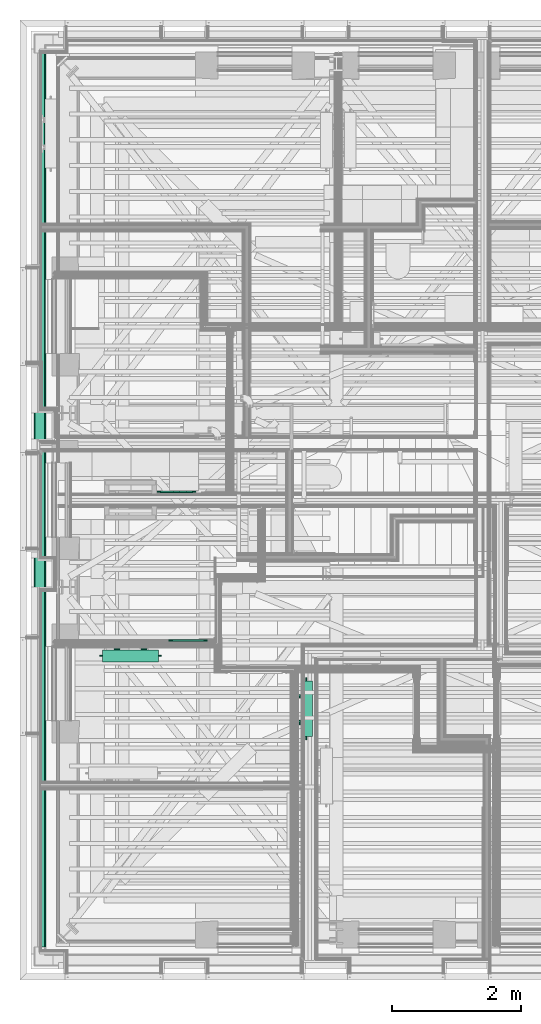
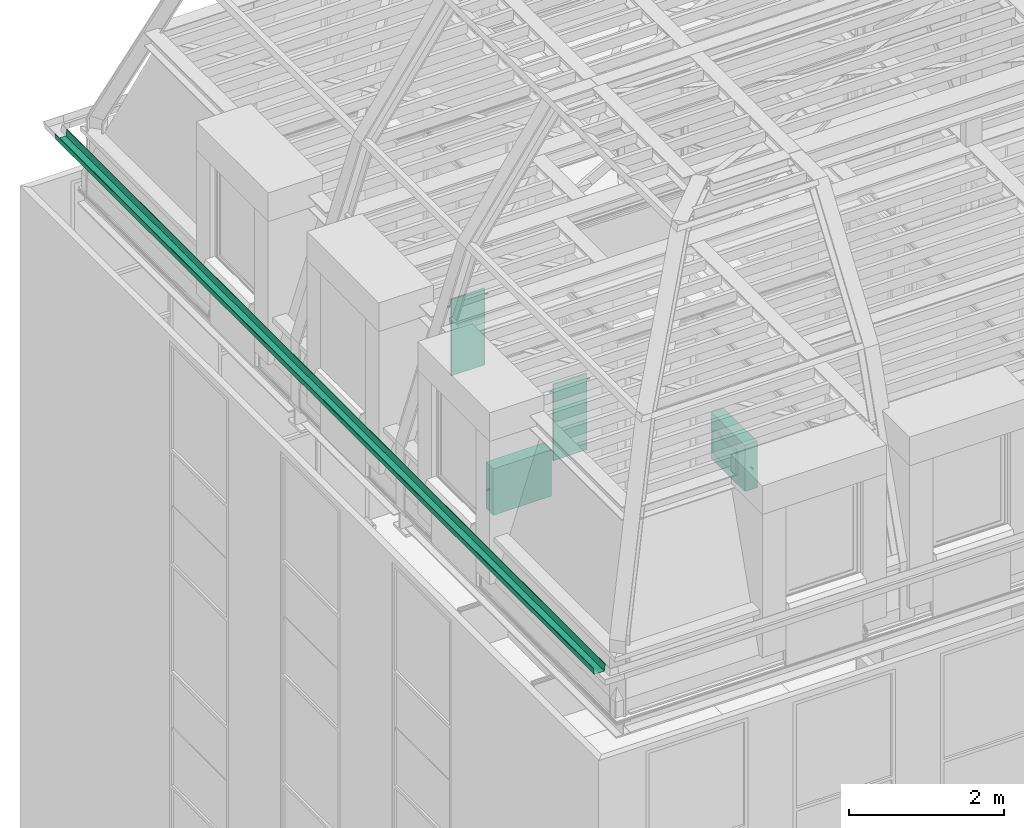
# One storey, part 159 of 183: 4 flow terminals, 1 flow fitting.
"""IFC2X3 building model written with IfcOpenShell, lengths in metres."""

from ifc_helpers import new_model, entity, si_unit, converted_unit, derived_unit, money_unit, direction, frame, origin_with_axes, place, context, subcontext, project, spatial, open_shell, faceted_brep, surface_model, material, type_object, element, save


model = new_model("IFC2X3")

# Units and contexts
model_context = context("Model", 3, precision=1e-05, world=origin_with_axes(), true_north=direction((0.0, 1.0)))
body_context = subcontext(model_context, "Body", "Model", "MODEL_VIEW", scale=1.0)
ifc_project = project(units=[si_unit("LENGTHUNIT", "METRE"), si_unit("AREAUNIT", "SQUARE_METRE"), si_unit("VOLUMEUNIT", "CUBIC_METRE"), si_unit("ABSORBEDDOSEUNIT", "GRAY"), si_unit("AMOUNTOFSUBSTANCEUNIT", "MOLE"), si_unit("DOSEEQUIVALENTUNIT", "SIEVERT"), si_unit("ELECTRICCAPACITANCEUNIT", "FARAD"), si_unit("ELECTRICCHARGEUNIT", "COULOMB"), si_unit("ELECTRICCONDUCTANCEUNIT", "SIEMENS"), si_unit("ELECTRICCURRENTUNIT", "AMPERE"), si_unit("ELECTRICRESISTANCEUNIT", "OHM"), si_unit("ELECTRICVOLTAGEUNIT", "VOLT"), si_unit("ENERGYUNIT", "JOULE"), si_unit("FORCEUNIT", "NEWTON"), si_unit("FREQUENCYUNIT", "HERTZ"), si_unit("ILLUMINANCEUNIT", "LUX"), si_unit("INDUCTANCEUNIT", "HENRY"), si_unit("LUMINOUSFLUXUNIT", "LUMEN"), si_unit("LUMINOUSINTENSITYUNIT", "CANDELA"), si_unit("MAGNETICFLUXDENSITYUNIT", "TESLA"), si_unit("MAGNETICFLUXUNIT", "WEBER"), si_unit("MASSUNIT", "GRAM"), converted_unit("PLANEANGLEUNIT", "degree", entity("IfcReal", 0.0174532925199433), si_unit("PLANEANGLEUNIT", "RADIAN"), dimensions=[0, 0, 0, 0, 0, 0, 0]), si_unit("POWERUNIT", "WATT"), si_unit("PRESSUREUNIT", "PASCAL"), si_unit("RADIOACTIVITYUNIT", "BECQUEREL"), si_unit("SOLIDANGLEUNIT", "STERADIAN"), si_unit("THERMODYNAMICTEMPERATUREUNIT", "KELVIN"), si_unit("TIMEUNIT", "SECOND"), derived_unit("ACCELERATIONUNIT", [(si_unit("LENGTHUNIT", "METRE"), 1), (si_unit("TIMEUNIT", "SECOND"), -2)]), derived_unit("ANGULARVELOCITYUNIT", [(converted_unit("PLANEANGLEUNIT", "degree", entity("IfcReal", 0.0174532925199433), si_unit("PLANEANGLEUNIT", "RADIAN"), dimensions=[0, 0, 0, 0, 0, 0, 0]), 1), (si_unit("TIMEUNIT", "SECOND"), -1)]), derived_unit("CURVATUREUNIT", [(converted_unit("PLANEANGLEUNIT", "degree", entity("IfcReal", 0.0174532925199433), si_unit("PLANEANGLEUNIT", "RADIAN"), dimensions=[0, 0, 0, 0, 0, 0, 0]), 1), (si_unit("LENGTHUNIT", "METRE"), -1)]), derived_unit("DYNAMICVISCOSITYUNIT", [(si_unit("PRESSUREUNIT", "PASCAL"), 1), (si_unit("TIMEUNIT", "SECOND"), 1)]), derived_unit("HEATFLUXDENSITYUNIT", [(si_unit("POWERUNIT", "WATT"), 1), (si_unit("LENGTHUNIT", "METRE"), -2)]), derived_unit("HEATINGVALUEUNIT", [(si_unit("ENERGYUNIT", "JOULE"), 1), (si_unit("MASSUNIT", "GRAM"), -1)]), derived_unit("INTEGERCOUNTRATEUNIT", [(si_unit("TIMEUNIT", "SECOND"), -1)]), derived_unit("IONCONCENTRATIONUNIT", [(si_unit("MASSUNIT", "GRAM"), 1), (si_unit("VOLUMEUNIT", "CUBIC_METRE"), -1)]), derived_unit("ISOTHERMALMOISTURECAPACITYUNIT", [(si_unit("VOLUMEUNIT", "CUBIC_METRE"), 1), (si_unit("MASSUNIT", "GRAM"), -1)]), derived_unit("KINEMATICVISCOSITYUNIT", [(si_unit("AREAUNIT", "SQUARE_METRE"), 1), (si_unit("TIMEUNIT", "SECOND"), -1)]), derived_unit("LINEARFORCEUNIT", [(si_unit("FORCEUNIT", "NEWTON"), 1), (si_unit("LENGTHUNIT", "METRE"), -1)]), derived_unit("LINEARMOMENTUNIT", [(si_unit("FORCEUNIT", "NEWTON"), 1), (si_unit("LENGTHUNIT", "METRE"), -1)]), derived_unit("LINEARSTIFFNESSUNIT", [(si_unit("FORCEUNIT", "NEWTON"), 1), (si_unit("LENGTHUNIT", "METRE"), -1)]), derived_unit("LINEARVELOCITYUNIT", [(si_unit("LENGTHUNIT", "METRE"), 1), (si_unit("TIMEUNIT", "SECOND"), -1)]), derived_unit("LUMINOUSINTENSITYDISTRIBUTIONUNIT", [(si_unit("LUMINOUSINTENSITYUNIT", "CANDELA"), 1), (si_unit("LUMINOUSFLUXUNIT", "LUMEN"), -1)]), derived_unit("MASSDENSITYUNIT", [(si_unit("MASSUNIT", "GRAM"), 1), (si_unit("VOLUMEUNIT", "CUBIC_METRE"), -1)]), derived_unit("MASSFLOWRATEUNIT", [(si_unit("MASSUNIT", "GRAM"), 1), (si_unit("TIMEUNIT", "SECOND"), -1)]), derived_unit("MASSPERLENGTHUNIT", [(si_unit("MASSUNIT", "GRAM"), 1), (si_unit("LENGTHUNIT", "METRE"), -1)]), derived_unit("MODULUSOFELASTICITYUNIT", [(si_unit("FORCEUNIT", "NEWTON"), 1), (si_unit("AREAUNIT", "SQUARE_METRE"), -1)]), derived_unit("MODULUSOFLINEARSUBGRADEREACTIONUNIT", [(si_unit("FORCEUNIT", "NEWTON"), 1), (si_unit("LENGTHUNIT", "METRE"), -2)]), derived_unit("MODULUSOFROTATIONALSUBGRADEREACTIONUNIT", [(si_unit("FORCEUNIT", "NEWTON"), 1), (si_unit("LENGTHUNIT", "METRE"), 1)]), derived_unit("MODULUSOFSUBGRADEREACTIONUNIT", [(si_unit("FORCEUNIT", "NEWTON"), 1), (si_unit("VOLUMEUNIT", "CUBIC_METRE"), -1)]), derived_unit("MOISTUREDIFFUSIVITYUNIT", [(si_unit("VOLUMEUNIT", "CUBIC_METRE"), 1), (si_unit("TIMEUNIT", "SECOND"), -1)]), derived_unit("MOLECULARWEIGHTUNIT", [(si_unit("MASSUNIT", "GRAM"), 1), (si_unit("AMOUNTOFSUBSTANCEUNIT", "MOLE"), -1)]), derived_unit("PLANARFORCEUNIT", [(si_unit("FORCEUNIT", "NEWTON"), 1), (si_unit("LENGTHUNIT", "METRE"), -2)]), derived_unit("ROTATIONALFREQUENCYUNIT", [(si_unit("TIMEUNIT", "SECOND"), -1)]), derived_unit("ROTATIONALMASSUNIT", [(si_unit("MASSUNIT", "GRAM"), 1), (si_unit("LENGTHUNIT", "METRE"), 2)]), derived_unit("ROTATIONALSTIFFNESSUNIT", [(si_unit("FORCEUNIT", "NEWTON"), 1), (si_unit("LENGTHUNIT", "METRE"), 1), (converted_unit("PLANEANGLEUNIT", "degree", entity("IfcReal", 0.0174532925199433), si_unit("PLANEANGLEUNIT", "RADIAN"), dimensions=[0, 0, 0, 0, 0, 0, 0]), -1)]), derived_unit("SECTIONAREAINTEGRALUNIT", [(si_unit("LENGTHUNIT", "METRE"), 5)]), derived_unit("SECTIONMODULUSUNIT", [(si_unit("LENGTHUNIT", "METRE"), 3)]), derived_unit("SHEARMODULUSUNIT", [(si_unit("FORCEUNIT", "NEWTON"), 1), (si_unit("AREAUNIT", "SQUARE_METRE"), -1)]), derived_unit("SOUNDPOWERUNIT", [(si_unit("ENERGYUNIT", "JOULE"), 1), (si_unit("TIMEUNIT", "SECOND"), -1)]), derived_unit("SPECIFICHEATCAPACITYUNIT", [(si_unit("FORCEUNIT", "NEWTON"), 1), (si_unit("MASSUNIT", "GRAM"), -1), (si_unit("THERMODYNAMICTEMPERATUREUNIT", "KELVIN"), -1)]), derived_unit("TEMPERATUREGRADIENTUNIT", [(si_unit("THERMODYNAMICTEMPERATUREUNIT", "KELVIN"), 1), (si_unit("LENGTHUNIT", "METRE"), -1)]), derived_unit("THERMALADMITTANCEUNIT", [(si_unit("POWERUNIT", "WATT"), 1), (si_unit("AREAUNIT", "SQUARE_METRE"), -1), (si_unit("THERMODYNAMICTEMPERATUREUNIT", "KELVIN"), -1)]), derived_unit("THERMALCONDUCTANCEUNIT", [(si_unit("POWERUNIT", "WATT"), 1), (si_unit("LENGTHUNIT", "METRE"), -1), (si_unit("THERMODYNAMICTEMPERATUREUNIT", "KELVIN"), -1)]), derived_unit("THERMALEXPANSIONCOEFFICIENTUNIT", [(si_unit("THERMODYNAMICTEMPERATUREUNIT", "KELVIN"), -1)]), derived_unit("THERMALRESISTANCEUNIT", [(si_unit("AREAUNIT", "SQUARE_METRE"), 1), (si_unit("POWERUNIT", "WATT"), -1)]), derived_unit("THERMALTRANSMITTANCEUNIT", [(si_unit("POWERUNIT", "WATT"), 1), (si_unit("AREAUNIT", "SQUARE_METRE"), -1), (si_unit("THERMODYNAMICTEMPERATUREUNIT", "KELVIN"), -1)]), derived_unit("TORQUEUNIT", [(si_unit("FORCEUNIT", "NEWTON"), 1), (si_unit("LENGTHUNIT", "METRE"), 1)]), derived_unit("VAPORPERMEABILITYUNIT", [(si_unit("MASSUNIT", "GRAM"), 1), (si_unit("TIMEUNIT", "SECOND"), -1)]), derived_unit("VOLUMETRICFLOWRATEUNIT", [(si_unit("VOLUMEUNIT", "CUBIC_METRE"), 1), (si_unit("TIMEUNIT", "SECOND"), -1)]), derived_unit("WARPINGCONSTANTUNIT", [(si_unit("LENGTHUNIT", "METRE"), 6)]), derived_unit("WARPINGMOMENTUNIT", [(si_unit("FORCEUNIT", "NEWTON"), 1), (si_unit("LENGTHUNIT", "METRE"), 2)]), money_unit("GBP")], contexts=[model_context])

# Site, building, storey
site_placement = place(None, origin_with_axes())
site = spatial("IfcSite", under=ifc_project, at=site_placement, Name="Site", CompositionType="ELEMENT")
building_placement = place(site_placement, origin_with_axes())
building = spatial("IfcBuilding", under=site, at=building_placement, Name="Building01", CompositionType="ELEMENT")
storey_placement = place(building_placement, frame((0.0, 0.0, 5.15), z_axis=(0.0, 0.0, 1.0), x_axis=(1.0, 0.0, 0.0)))
storey = spatial("IfcBuildingStorey", under=building, at=storey_placement, Name="1F", CompositionType="ELEMENT", Elevation=5.15)

# Flow fitting
ifc_material_1 = material(Name="A_BSUK_RainwaterDrainageSystems")
pipe_fitting_type = type_object("IfcPipeFittingType", Name="A-RainwaterDrainageSystems-GutterStraight", PredefinedType="NOTDEFINED")
flow_fitting_placement = place(storey_placement, frame((0.214346, 14.385347, 10.629268), z_axis=(0.0, 0.0, 1.0), x_axis=(0.0, -1.0, 0.0)))
element("IfcFlowFitting", 1, at=flow_fitting_placement, inside=storey, type_object=pipe_fitting_type, material=ifc_material_1, Name="A-RainwaterDrainageSystems-GutterStraight", ObjectType="A-RainwaterDrainageSystems-GutterStraight", context=body_context, shape_type="Brep", body=[
    faceted_brep([(13.871001, 0.0, 0.100732), (1e-06, 0.0, 0.100732), (1e-06, 0.0, 0.099144), (13.871001, 0.0, 0.099145), (13.871001, 0.005654, 0.099145), (1e-06, 0.005654, 0.099144), (1e-06, 0.018707, 0.0), (13.871001, 0.018707, 0.0), (1e-06, 0.170099, 0.0), (13.871001, 0.170099, 0.0), (1e-06, 0.183152, 0.099144), (13.871001, 0.183152, 0.099145), (1e-06, 0.188806, 0.099144), (13.871001, 0.188806, 0.099145), (1e-06, 0.188806, 0.100732), (13.871001, 0.188806, 0.100732), (1e-06, 0.18176, 0.100732), (13.871001, 0.18176, 0.100732), (1e-06, 0.168707, 0.001588), (13.871001, 0.168707, 0.001588), (1e-06, 0.020099, 0.001588), (13.871001, 0.020099, 0.001588), (1e-06, 0.007047, 0.100732), (13.871001, 0.007047, 0.100732)], [[[0, 1, 2, 3]], [[4, 5, 6, 7]], [[7, 6, 8, 9]], [[9, 8, 10, 11]], [[11, 10, 12, 13]], [[13, 12, 14, 15]], [[15, 14, 16, 17]], [[17, 16, 18, 19]], [[19, 18, 20, 21]], [[21, 20, 22, 23]], [[23, 22, 1, 0]], [[3, 4, 7, 9, 11, 13, 15, 17, 19, 21, 23, 0]], [[3, 2, 5, 4]], [[1, 22, 20, 18, 16, 14, 12, 10, 8, 6, 5, 2]]]),
])

# Space
space_1_placement = place(storey_placement, frame((12.175, 4.189428, 9.81), z_axis=(0.0, 0.0, 1.0), x_axis=(0.0, 1.0, 0.0)))
space_1 = spatial("IfcSpace", under=storey, at=space_1_placement, Name="25", CompositionType="ELEMENT", InteriorOrExteriorSpace="NOTDEFINED")

# Flow terminals
ifc_material_2 = material(Name="M_BSUK_Ventilation")
space_heater_type_1 = type_object("IfcSpaceHeaterType", Name="M-BmvRadiatorpanel-Panel", PredefinedType="NOTDEFINED")
flow_terminal_1_placement = place(storey_placement, frame((4.445226, 3.777439, 10.445), z_axis=(0.0, 0.0, 1.0), x_axis=(0.0, 1.0, 0.0)))
element("IfcFlowTerminal", 2, at=flow_terminal_1_placement, inside=space_1, type_object=space_heater_type_1, material=ifc_material_2, Name="M-BmvRadiatorpanel-Panel", ObjectType="M-BmvRadiatorpanel-Panel", context=body_context, shape_type="SurfaceModel", body=[
    surface_model("IfcShellBasedSurfaceModel", [(0.865, -0.0925, 0.365), (0.865, 0.0925, 0.365), (0.0, 0.0925, 0.365), (0.0, -0.0925, 0.365), (0.865, -0.0925, -0.365), (0.865, 0.0925, -0.365), (0.0, -0.0925, -0.365), (0.0, 0.0925, -0.365), (0.1325, 0.12025, 0.175), (0.7325, 0.12025, 0.175), (0.7325, 0.14525, 0.175), (0.1325, 0.14525, 0.175), (0.7325, 0.14525, -0.175), (0.1325, 0.14525, -0.175), (0.7325, 0.12025, -0.175), (0.1325, 0.12025, -0.175), (0.2225, 0.0925, 0.0775), (0.2225, 0.12025, 0.0775), (0.239721, 0.12025, 0.080925), (0.239721, 0.0925, 0.080925), (0.25432, 0.12025, 0.09068), (0.25432, 0.0925, 0.09068), (0.264075, 0.12025, 0.105279), (0.264075, 0.0925, 0.105279), (0.2675, 0.12025, 0.1225), (0.2675, 0.0925, 0.1225), (0.264075, 0.12025, 0.139721), (0.264075, 0.0925, 0.139721), (0.25432, 0.12025, 0.15432), (0.25432, 0.0925, 0.15432), (0.239721, 0.12025, 0.164075), (0.239721, 0.0925, 0.164075), (0.2225, 0.12025, 0.1675), (0.2225, 0.0925, 0.1675), (0.205279, 0.12025, 0.164075), (0.205279, 0.0925, 0.164075), (0.19068, 0.12025, 0.15432), (0.19068, 0.0925, 0.15432), (0.180925, 0.12025, 0.139721), (0.180925, 0.0925, 0.139721), (0.1775, 0.12025, 0.1225), (0.1775, 0.0925, 0.1225), (0.180925, 0.12025, 0.105279), (0.180925, 0.0925, 0.105279), (0.19068, 0.12025, 0.09068), (0.19068, 0.0925, 0.09068), (0.205279, 0.12025, 0.080925), (0.205279, 0.0925, 0.080925), (0.6425, 0.0925, 0.0775), (0.6425, 0.12025, 0.0775), (0.659721, 0.12025, 0.080925), (0.659721, 0.0925, 0.080925), (0.67432, 0.12025, 0.09068), (0.67432, 0.0925, 0.09068), (0.684075, 0.12025, 0.105279), (0.684075, 0.0925, 0.105279), (0.6875, 0.12025, 0.1225), (0.6875, 0.0925, 0.1225), (0.684075, 0.12025, 0.139721), (0.684075, 0.0925, 0.139721), (0.67432, 0.12025, 0.15432), (0.67432, 0.0925, 0.15432), (0.659721, 0.12025, 0.164075), (0.659721, 0.0925, 0.164075), (0.6425, 0.12025, 0.1675), (0.6425, 0.0925, 0.1675), (0.625279, 0.12025, 0.164075), (0.625279, 0.0925, 0.164075), (0.61068, 0.12025, 0.15432), (0.61068, 0.0925, 0.15432), (0.600925, 0.12025, 0.139721), (0.600925, 0.0925, 0.139721), (0.5975, 0.12025, 0.1225), (0.5975, 0.0925, 0.1225), (0.600925, 0.12025, 0.105279), (0.600925, 0.0925, 0.105279), (0.61068, 0.12025, 0.09068), (0.61068, 0.0925, 0.09068), (0.625279, 0.12025, 0.080925), (0.625279, 0.0925, 0.080925), (-0.05, 0.0, -0.0225), (0.0, 0.0, -0.0225), (0.0, -0.004784, -0.021548), (-0.05, -0.004784, -0.021548), (0.0, -0.008839, -0.018839), (-0.05, -0.008839, -0.018839), (0.0, -0.011548, -0.014784), (-0.05, -0.011548, -0.014784), (0.0, -0.0125, -0.01), (-0.05, -0.0125, -0.01), (0.0, -0.011548, -0.005216), (-0.05, -0.011548, -0.005216), (0.0, -0.008839, -0.001161), (-0.05, -0.008839, -0.001161), (0.0, -0.004784, 0.001548), (-0.05, -0.004784, 0.001548), (0.0, 0.0, 0.0025), (-0.05, 0.0, 0.0025), (0.0, 0.004784, 0.001548), (-0.05, 0.004784, 0.001548), (0.0, 0.008839, -0.001161), (-0.05, 0.008839, -0.001161), (0.0, 0.011548, -0.005216), (-0.05, 0.011548, -0.005216), (0.0, 0.0125, -0.01), (-0.05, 0.0125, -0.01), (0.0, 0.011548, -0.014784), (-0.05, 0.011548, -0.014784), (0.0, 0.008839, -0.018839), (-0.05, 0.008839, -0.018839), (0.0, 0.004784, -0.021548), (-0.05, 0.004784, -0.021548), (0.915, 0.0, 0.2525), (0.865, 0.0, 0.2525), (0.865, 0.004784, 0.253452), (0.915, 0.004784, 0.253452), (0.865, 0.008839, 0.256161), (0.915, 0.008839, 0.256161), (0.865, 0.011548, 0.260216), (0.915, 0.011548, 0.260216), (0.865, 0.0125, 0.265), (0.915, 0.0125, 0.265), (0.865, 0.011548, 0.269784), (0.915, 0.011548, 0.269784), (0.865, 0.008839, 0.273839), (0.915, 0.008839, 0.273839), (0.865, 0.004784, 0.276548), (0.915, 0.004784, 0.276548), (0.865, 0.0, 0.2775), (0.915, 0.0, 0.2775), (0.865, -0.004784, 0.276548), (0.915, -0.004784, 0.276548), (0.865, -0.008839, 0.273839), (0.915, -0.008839, 0.273839), (0.865, -0.011548, 0.269784), (0.915, -0.011548, 0.269784), (0.865, -0.0125, 0.265), (0.915, -0.0125, 0.265), (0.865, -0.011548, 0.260216), (0.915, -0.011548, 0.260216), (0.865, -0.008839, 0.256161), (0.915, -0.008839, 0.256161), (0.865, -0.004784, 0.253452), (0.915, -0.004784, 0.253452)], [open_shell([[[0, 1, 2, 3]], [[4, 5, 1, 0]], [[6, 7, 5, 4]], [[3, 2, 7, 6]], [[1, 5, 7, 2]], [[3, 6, 4, 0]], [[8, 9, 10, 11]], [[11, 10, 12, 13]], [[13, 12, 14, 15]], [[15, 14, 9, 8]], [[9, 14, 12, 10]], [[11, 13, 15, 8]], [[16, 17, 18, 19]], [[19, 18, 20, 21]], [[21, 20, 22, 23]], [[23, 22, 24, 25]], [[25, 24, 26, 27]], [[27, 26, 28, 29]], [[29, 28, 30, 31]], [[31, 30, 32, 33]], [[33, 32, 34, 35]], [[35, 34, 36, 37]], [[37, 36, 38, 39]], [[39, 38, 40, 41]], [[41, 40, 42, 43]], [[43, 42, 44, 45]], [[45, 44, 46, 47]], [[47, 46, 17, 16]], [[48, 49, 50, 51]], [[51, 50, 52, 53]], [[53, 52, 54, 55]], [[55, 54, 56, 57]], [[57, 56, 58, 59]], [[59, 58, 60, 61]], [[61, 60, 62, 63]], [[63, 62, 64, 65]], [[65, 64, 66, 67]], [[67, 66, 68, 69]], [[69, 68, 70, 71]], [[71, 70, 72, 73]], [[73, 72, 74, 75]], [[75, 74, 76, 77]], [[77, 76, 78, 79]], [[79, 78, 49, 48]], [[80, 81, 82, 83]], [[83, 82, 84, 85]], [[85, 84, 86, 87]], [[87, 86, 88, 89]], [[89, 88, 90, 91]], [[91, 90, 92, 93]], [[93, 92, 94, 95]], [[95, 94, 96, 97]], [[97, 96, 98, 99]], [[99, 98, 100, 101]], [[101, 100, 102, 103]], [[103, 102, 104, 105]], [[105, 104, 106, 107]], [[107, 106, 108, 109]], [[109, 108, 110, 111]], [[111, 110, 81, 80]], [[112, 113, 114, 115]], [[115, 114, 116, 117]], [[117, 116, 118, 119]], [[119, 118, 120, 121]], [[121, 120, 122, 123]], [[123, 122, 124, 125]], [[125, 124, 126, 127]], [[127, 126, 128, 129]], [[129, 128, 130, 131]], [[131, 130, 132, 133]], [[133, 132, 134, 135]], [[135, 134, 136, 137]], [[137, 136, 138, 139]], [[139, 138, 140, 141]], [[141, 140, 142, 143]], [[143, 142, 113, 112]]])]),
])
flow_terminal_2_placement = place(storey_placement, frame((1.282611, 5.029726, 10.445), z_axis=(0.0, 0.0, 1.0), x_axis=(1.0, 0.0, 0.0)))
element("IfcFlowTerminal", 3, at=flow_terminal_2_placement, inside=space_1, type_object=space_heater_type_1, material=ifc_material_2, Name="M-BmvRadiatorpanel-Panel", ObjectType="M-BmvRadiatorpanel-Panel", context=body_context, shape_type="SurfaceModel", body=[
    surface_model("IfcShellBasedSurfaceModel", [(0.865, -0.0925, 0.365), (0.865, 0.0925, 0.365), (0.0, 0.0925, 0.365), (0.0, -0.0925, 0.365), (0.865, -0.0925, -0.365), (0.865, 0.0925, -0.365), (0.0, -0.0925, -0.365), (0.0, 0.0925, -0.365), (0.1325, 0.12025, 0.175), (0.7325, 0.12025, 0.175), (0.7325, 0.14525, 0.175), (0.1325, 0.14525, 0.175), (0.7325, 0.14525, -0.175), (0.1325, 0.14525, -0.175), (0.7325, 0.12025, -0.175), (0.1325, 0.12025, -0.175), (0.2225, 0.0925, 0.0775), (0.2225, 0.12025, 0.0775), (0.239721, 0.12025, 0.080925), (0.239721, 0.0925, 0.080925), (0.25432, 0.12025, 0.09068), (0.25432, 0.0925, 0.09068), (0.264075, 0.12025, 0.105279), (0.264075, 0.0925, 0.105279), (0.2675, 0.12025, 0.1225), (0.2675, 0.0925, 0.1225), (0.264075, 0.12025, 0.139721), (0.264075, 0.0925, 0.139721), (0.25432, 0.12025, 0.15432), (0.25432, 0.0925, 0.15432), (0.239721, 0.12025, 0.164075), (0.239721, 0.0925, 0.164075), (0.2225, 0.12025, 0.1675), (0.2225, 0.0925, 0.1675), (0.205279, 0.12025, 0.164075), (0.205279, 0.0925, 0.164075), (0.19068, 0.12025, 0.15432), (0.19068, 0.0925, 0.15432), (0.180925, 0.12025, 0.139721), (0.180925, 0.0925, 0.139721), (0.1775, 0.12025, 0.1225), (0.1775, 0.0925, 0.1225), (0.180925, 0.12025, 0.105279), (0.180925, 0.0925, 0.105279), (0.19068, 0.12025, 0.09068), (0.19068, 0.0925, 0.09068), (0.205279, 0.12025, 0.080925), (0.205279, 0.0925, 0.080925), (0.6425, 0.0925, 0.0775), (0.6425, 0.12025, 0.0775), (0.659721, 0.12025, 0.080925), (0.659721, 0.0925, 0.080925), (0.67432, 0.12025, 0.09068), (0.67432, 0.0925, 0.09068), (0.684075, 0.12025, 0.105279), (0.684075, 0.0925, 0.105279), (0.6875, 0.12025, 0.1225), (0.6875, 0.0925, 0.1225), (0.684075, 0.12025, 0.139721), (0.684075, 0.0925, 0.139721), (0.67432, 0.12025, 0.15432), (0.67432, 0.0925, 0.15432), (0.659721, 0.12025, 0.164075), (0.659721, 0.0925, 0.164075), (0.6425, 0.12025, 0.1675), (0.6425, 0.0925, 0.1675), (0.625279, 0.12025, 0.164075), (0.625279, 0.0925, 0.164075), (0.61068, 0.12025, 0.15432), (0.61068, 0.0925, 0.15432), (0.600925, 0.12025, 0.139721), (0.600925, 0.0925, 0.139721), (0.5975, 0.12025, 0.1225), (0.5975, 0.0925, 0.1225), (0.600925, 0.12025, 0.105279), (0.600925, 0.0925, 0.105279), (0.61068, 0.12025, 0.09068), (0.61068, 0.0925, 0.09068), (0.625279, 0.12025, 0.080925), (0.625279, 0.0925, 0.080925), (-0.05, 0.0, -0.0225), (0.0, 0.0, -0.0225), (0.0, -0.004784, -0.021548), (-0.05, -0.004784, -0.021548), (0.0, -0.008839, -0.018839), (-0.05, -0.008839, -0.018839), (0.0, -0.011548, -0.014784), (-0.05, -0.011548, -0.014784), (0.0, -0.0125, -0.01), (-0.05, -0.0125, -0.01), (0.0, -0.011548, -0.005216), (-0.05, -0.011548, -0.005216), (0.0, -0.008839, -0.001161), (-0.05, -0.008839, -0.001161), (0.0, -0.004784, 0.001548), (-0.05, -0.004784, 0.001548), (0.0, 0.0, 0.0025), (-0.05, 0.0, 0.0025), (0.0, 0.004784, 0.001548), (-0.05, 0.004784, 0.001548), (0.0, 0.008839, -0.001161), (-0.05, 0.008839, -0.001161), (0.0, 0.011548, -0.005216), (-0.05, 0.011548, -0.005216), (0.0, 0.0125, -0.01), (-0.05, 0.0125, -0.01), (0.0, 0.011548, -0.014784), (-0.05, 0.011548, -0.014784), (0.0, 0.008839, -0.018839), (-0.05, 0.008839, -0.018839), (0.0, 0.004784, -0.021548), (-0.05, 0.004784, -0.021548), (0.915, 0.0, 0.2525), (0.865, 0.0, 0.2525), (0.865, 0.004784, 0.253452), (0.915, 0.004784, 0.253452), (0.865, 0.008839, 0.256161), (0.915, 0.008839, 0.256161), (0.865, 0.011548, 0.260216), (0.915, 0.011548, 0.260216), (0.865, 0.0125, 0.265), (0.915, 0.0125, 0.265), (0.865, 0.011548, 0.269784), (0.915, 0.011548, 0.269784), (0.865, 0.008839, 0.273839), (0.915, 0.008839, 0.273839), (0.865, 0.004784, 0.276548), (0.915, 0.004784, 0.276548), (0.865, 0.0, 0.2775), (0.915, 0.0, 0.2775), (0.865, -0.004784, 0.276548), (0.915, -0.004784, 0.276548), (0.865, -0.008839, 0.273839), (0.915, -0.008839, 0.273839), (0.865, -0.011548, 0.269784), (0.915, -0.011548, 0.269784), (0.865, -0.0125, 0.265), (0.915, -0.0125, 0.265), (0.865, -0.011548, 0.260216), (0.915, -0.011548, 0.260216), (0.865, -0.008839, 0.256161), (0.915, -0.008839, 0.256161), (0.865, -0.004784, 0.253452), (0.915, -0.004784, 0.253452)], [open_shell([[[0, 1, 2, 3]], [[4, 5, 1, 0]], [[6, 7, 5, 4]], [[3, 2, 7, 6]], [[1, 5, 7, 2]], [[3, 6, 4, 0]], [[8, 9, 10, 11]], [[11, 10, 12, 13]], [[13, 12, 14, 15]], [[15, 14, 9, 8]], [[9, 14, 12, 10]], [[11, 13, 15, 8]], [[16, 17, 18, 19]], [[19, 18, 20, 21]], [[21, 20, 22, 23]], [[23, 22, 24, 25]], [[25, 24, 26, 27]], [[27, 26, 28, 29]], [[29, 28, 30, 31]], [[31, 30, 32, 33]], [[33, 32, 34, 35]], [[35, 34, 36, 37]], [[37, 36, 38, 39]], [[39, 38, 40, 41]], [[41, 40, 42, 43]], [[43, 42, 44, 45]], [[45, 44, 46, 47]], [[47, 46, 17, 16]], [[48, 49, 50, 51]], [[51, 50, 52, 53]], [[53, 52, 54, 55]], [[55, 54, 56, 57]], [[57, 56, 58, 59]], [[59, 58, 60, 61]], [[61, 60, 62, 63]], [[63, 62, 64, 65]], [[65, 64, 66, 67]], [[67, 66, 68, 69]], [[69, 68, 70, 71]], [[71, 70, 72, 73]], [[73, 72, 74, 75]], [[75, 74, 76, 77]], [[77, 76, 78, 79]], [[79, 78, 49, 48]], [[80, 81, 82, 83]], [[83, 82, 84, 85]], [[85, 84, 86, 87]], [[87, 86, 88, 89]], [[89, 88, 90, 91]], [[91, 90, 92, 93]], [[93, 92, 94, 95]], [[95, 94, 96, 97]], [[97, 96, 98, 99]], [[99, 98, 100, 101]], [[101, 100, 102, 103]], [[103, 102, 104, 105]], [[105, 104, 106, 107]], [[107, 106, 108, 109]], [[109, 108, 110, 111]], [[111, 110, 81, 80]], [[112, 113, 114, 115]], [[115, 114, 116, 117]], [[117, 116, 118, 119]], [[119, 118, 120, 121]], [[121, 120, 122, 123]], [[123, 122, 124, 125]], [[125, 124, 126, 127]], [[127, 126, 128, 129]], [[129, 128, 130, 131]], [[131, 130, 132, 133]], [[133, 132, 134, 135]], [[135, 134, 136, 137]], [[137, 136, 138, 139]], [[139, 138, 140, 141]], [[141, 140, 142, 143]], [[143, 142, 113, 112]]])]),
])

# Space
space_2_placement = place(storey_placement, frame((1.009939, 13.890379, 9.81), z_axis=(0.0, 0.0, 1.0), x_axis=(0.0, -1.0, 0.0)))
space_2 = spatial("IfcSpace", under=storey, at=space_2_placement, Name="26", CompositionType="ELEMENT", InteriorOrExteriorSpace="NOTDEFINED")

# Flow terminals
space_heater_type_2 = type_object("IfcSpaceHeaterType", Name="M-BmvRadiator-Column", PredefinedType="NOTDEFINED")
flow_terminal_3_placement = place(storey_placement, frame((2.177834, 7.576412, 10.965), z_axis=(0.0, 0.0, 1.0), x_axis=(1.0, 0.0, 0.0)))
element("IfcFlowTerminal", 4, at=flow_terminal_3_placement, inside=space_2, type_object=space_heater_type_2, material=ifc_material_2, Name="M-BmvRadiator-Column", ObjectType="M-BmvRadiator-Column", context=body_context, shape_type="SurfaceModel", body=[
    surface_model("IfcShellBasedSurfaceModel", [(0.0, -0.0125, 0.6), (0.0, -0.0125, -0.6), (0.0, 0.0125, -0.6), (0.0, 0.0125, 0.6), (0.5, -0.0125, 0.6), (0.5, -0.0125, -0.6), (0.5, 0.0125, -0.6), (0.5, 0.0125, 0.6), (0.1, 0.0125, 0.6), (0.1, -0.0125, 0.6), (0.1, -0.0125, -0.6), (0.1, 0.0125, -0.6), (0.2, 0.0125, 0.6), (0.2, -0.0125, 0.6), (0.2, -0.0125, -0.6), (0.2, 0.0125, -0.6), (0.3, 0.0125, 0.6), (0.3, -0.0125, 0.6), (0.3, -0.0125, -0.6), (0.3, 0.0125, -0.6), (0.4, 0.0125, 0.6), (0.4, -0.0125, 0.6), (0.4, -0.0125, -0.6), (0.4, 0.0125, -0.6), (-0.05, 0.0, 0.4825), (0.0, 0.0, 0.4825), (0.0, -0.003827, 0.483261), (-0.05, -0.003827, 0.483261), (0.0, -0.007071, 0.485429), (-0.05, -0.007071, 0.485429), (0.0, -0.009239, 0.488673), (-0.05, -0.009239, 0.488673), (0.0, -0.01, 0.4925), (-0.05, -0.01, 0.4925), (0.0, -0.009239, 0.496327), (-0.05, -0.009239, 0.496327), (0.0, -0.007071, 0.499571), (-0.05, -0.007071, 0.499571), (0.0, -0.003827, 0.501739), (-0.05, -0.003827, 0.501739), (0.0, 0.0, 0.5025), (-0.05, 0.0, 0.5025), (0.0, 0.003827, 0.501739), (-0.05, 0.003827, 0.501739), (0.0, 0.007071, 0.499571), (-0.05, 0.007071, 0.499571), (0.0, 0.009239, 0.496327), (-0.05, 0.009239, 0.496327), (0.0, 0.01, 0.4925), (-0.05, 0.01, 0.4925), (0.0, 0.009239, 0.488673), (-0.05, 0.009239, 0.488673), (0.0, 0.007071, 0.485429), (-0.05, 0.007071, 0.485429), (0.0, 0.003827, 0.483261), (-0.05, 0.003827, 0.483261), (0.55, 0.0, 0.4884), (0.5, 0.0, 0.4884), (0.5, 0.003827, 0.489161), (0.55, 0.003827, 0.489161), (0.5, 0.007071, 0.491329), (0.55, 0.007071, 0.491329), (0.5, 0.009239, 0.494573), (0.55, 0.009239, 0.494573), (0.5, 0.01, 0.4984), (0.55, 0.01, 0.4984), (0.5, 0.009239, 0.502227), (0.55, 0.009239, 0.502227), (0.5, 0.007071, 0.505471), (0.55, 0.007071, 0.505471), (0.5, 0.003827, 0.507639), (0.55, 0.003827, 0.507639), (0.5, 0.0, 0.5084), (0.55, 0.0, 0.5084), (0.5, -0.003827, 0.507639), (0.55, -0.003827, 0.507639), (0.5, -0.007071, 0.505471), (0.55, -0.007071, 0.505471), (0.5, -0.009239, 0.502227), (0.55, -0.009239, 0.502227), (0.5, -0.01, 0.4984), (0.55, -0.01, 0.4984), (0.5, -0.009239, 0.494573), (0.55, -0.009239, 0.494573), (0.5, -0.007071, 0.491329), (0.55, -0.007071, 0.491329), (0.5, -0.003827, 0.489161), (0.55, -0.003827, 0.489161)], [open_shell([[[0, 1, 2, 3]], [[4, 5, 6, 7]], [[8, 3, 0, 9]], [[9, 0, 1, 10]], [[10, 1, 2, 11]], [[11, 2, 3, 8]], [[12, 8, 9, 13]], [[13, 9, 10, 14]], [[14, 10, 11, 15]], [[15, 11, 8, 12]], [[16, 12, 13, 17]], [[17, 13, 14, 18]], [[18, 14, 15, 19]], [[19, 15, 12, 16]], [[20, 16, 17, 21]], [[21, 17, 18, 22]], [[22, 18, 19, 23]], [[23, 19, 16, 20]], [[7, 20, 21, 4]], [[4, 21, 22, 5]], [[5, 22, 23, 6]], [[6, 23, 20, 7]], [[24, 25, 26, 27]], [[27, 26, 28, 29]], [[29, 28, 30, 31]], [[31, 30, 32, 33]], [[33, 32, 34, 35]], [[35, 34, 36, 37]], [[37, 36, 38, 39]], [[39, 38, 40, 41]], [[41, 40, 42, 43]], [[43, 42, 44, 45]], [[45, 44, 46, 47]], [[47, 46, 48, 49]], [[49, 48, 50, 51]], [[51, 50, 52, 53]], [[53, 52, 54, 55]], [[55, 54, 25, 24]], [[56, 57, 58, 59]], [[59, 58, 60, 61]], [[61, 60, 62, 63]], [[63, 62, 64, 65]], [[65, 64, 66, 67]], [[67, 66, 68, 69]], [[69, 68, 70, 71]], [[71, 70, 72, 73]], [[73, 72, 74, 75]], [[75, 74, 76, 77]], [[77, 76, 78, 79]], [[79, 78, 80, 81]], [[81, 80, 82, 83]], [[83, 82, 84, 85]], [[85, 84, 86, 87]], [[87, 86, 57, 56]]])]),
])
flow_terminal_4_placement = place(storey_placement, frame((2.359875, 5.268454, 10.965), z_axis=(0.0, 0.0, 1.0), x_axis=(1.0, 0.0, 0.0)))
element("IfcFlowTerminal", 5, at=flow_terminal_4_placement, inside=space_1, type_object=space_heater_type_2, material=ifc_material_2, Name="M-BmvRadiator-Column", ObjectType="M-BmvRadiator-Column", context=body_context, shape_type="SurfaceModel", body=[
    surface_model("IfcShellBasedSurfaceModel", [(0.0, -0.0125, 0.6), (0.0, -0.0125, -0.6), (0.0, 0.0125, -0.6), (0.0, 0.0125, 0.6), (0.5, -0.0125, 0.6), (0.5, -0.0125, -0.6), (0.5, 0.0125, -0.6), (0.5, 0.0125, 0.6), (0.1, 0.0125, 0.6), (0.1, -0.0125, 0.6), (0.1, -0.0125, -0.6), (0.1, 0.0125, -0.6), (0.2, 0.0125, 0.6), (0.2, -0.0125, 0.6), (0.2, -0.0125, -0.6), (0.2, 0.0125, -0.6), (0.3, 0.0125, 0.6), (0.3, -0.0125, 0.6), (0.3, -0.0125, -0.6), (0.3, 0.0125, -0.6), (0.4, 0.0125, 0.6), (0.4, -0.0125, 0.6), (0.4, -0.0125, -0.6), (0.4, 0.0125, -0.6), (-0.05, 0.0, 0.4825), (0.0, 0.0, 0.4825), (0.0, -0.003827, 0.483261), (-0.05, -0.003827, 0.483261), (0.0, -0.007071, 0.485429), (-0.05, -0.007071, 0.485429), (0.0, -0.009239, 0.488673), (-0.05, -0.009239, 0.488673), (0.0, -0.01, 0.4925), (-0.05, -0.01, 0.4925), (0.0, -0.009239, 0.496327), (-0.05, -0.009239, 0.496327), (0.0, -0.007071, 0.499571), (-0.05, -0.007071, 0.499571), (0.0, -0.003827, 0.501739), (-0.05, -0.003827, 0.501739), (0.0, 0.0, 0.5025), (-0.05, 0.0, 0.5025), (0.0, 0.003827, 0.501739), (-0.05, 0.003827, 0.501739), (0.0, 0.007071, 0.499571), (-0.05, 0.007071, 0.499571), (0.0, 0.009239, 0.496327), (-0.05, 0.009239, 0.496327), (0.0, 0.01, 0.4925), (-0.05, 0.01, 0.4925), (0.0, 0.009239, 0.488673), (-0.05, 0.009239, 0.488673), (0.0, 0.007071, 0.485429), (-0.05, 0.007071, 0.485429), (0.0, 0.003827, 0.483261), (-0.05, 0.003827, 0.483261), (0.55, 0.0, 0.4884), (0.5, 0.0, 0.4884), (0.5, 0.003827, 0.489161), (0.55, 0.003827, 0.489161), (0.5, 0.007071, 0.491329), (0.55, 0.007071, 0.491329), (0.5, 0.009239, 0.494573), (0.55, 0.009239, 0.494573), (0.5, 0.01, 0.4984), (0.55, 0.01, 0.4984), (0.5, 0.009239, 0.502227), (0.55, 0.009239, 0.502227), (0.5, 0.007071, 0.505471), (0.55, 0.007071, 0.505471), (0.5, 0.003827, 0.507639), (0.55, 0.003827, 0.507639), (0.5, 0.0, 0.5084), (0.55, 0.0, 0.5084), (0.5, -0.003827, 0.507639), (0.55, -0.003827, 0.507639), (0.5, -0.007071, 0.505471), (0.55, -0.007071, 0.505471), (0.5, -0.009239, 0.502227), (0.55, -0.009239, 0.502227), (0.5, -0.01, 0.4984), (0.55, -0.01, 0.4984), (0.5, -0.009239, 0.494573), (0.55, -0.009239, 0.494573), (0.5, -0.007071, 0.491329), (0.55, -0.007071, 0.491329), (0.5, -0.003827, 0.489161), (0.55, -0.003827, 0.489161)], [open_shell([[[0, 1, 2, 3]], [[4, 5, 6, 7]], [[8, 3, 0, 9]], [[9, 0, 1, 10]], [[10, 1, 2, 11]], [[11, 2, 3, 8]], [[12, 8, 9, 13]], [[13, 9, 10, 14]], [[14, 10, 11, 15]], [[15, 11, 8, 12]], [[16, 12, 13, 17]], [[17, 13, 14, 18]], [[18, 14, 15, 19]], [[19, 15, 12, 16]], [[20, 16, 17, 21]], [[21, 17, 18, 22]], [[22, 18, 19, 23]], [[23, 19, 16, 20]], [[7, 20, 21, 4]], [[4, 21, 22, 5]], [[5, 22, 23, 6]], [[6, 23, 20, 7]], [[24, 25, 26, 27]], [[27, 26, 28, 29]], [[29, 28, 30, 31]], [[31, 30, 32, 33]], [[33, 32, 34, 35]], [[35, 34, 36, 37]], [[37, 36, 38, 39]], [[39, 38, 40, 41]], [[41, 40, 42, 43]], [[43, 42, 44, 45]], [[45, 44, 46, 47]], [[47, 46, 48, 49]], [[49, 48, 50, 51]], [[51, 50, 52, 53]], [[53, 52, 54, 55]], [[55, 54, 25, 24]], [[56, 57, 58, 59]], [[59, 58, 60, 61]], [[61, 60, 62, 63]], [[63, 62, 64, 65]], [[65, 64, 66, 67]], [[67, 66, 68, 69]], [[69, 68, 70, 71]], [[71, 70, 72, 73]], [[73, 72, 74, 75]], [[75, 74, 76, 77]], [[77, 76, 78, 79]], [[79, 78, 80, 81]], [[81, 80, 82, 83]], [[83, 82, 84, 85]], [[85, 84, 86, 87]], [[87, 86, 57, 56]]])]),
])

save(model, "model.ifc")
